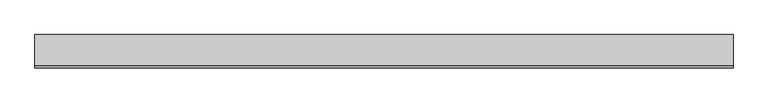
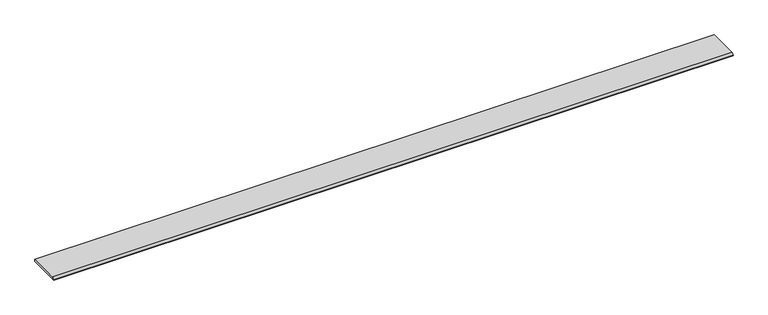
"""IFC4 building model written with IfcOpenShell, lengths in millimetres: proxy geometry, Muestra 2.5m 013 Anti-Slip : Muestra 2.5m 013 Anti-Slip."""

from ifc_helpers import new_model, si_unit, point, frame, frame_2d, origin, place, context, project, spatial, polyline, circle_curve, trimmed, segment, composite_curve, outline, extrude, source, transform, mapped, element, save


def generic_models_974fd3aa(model_context):
    return source(origin(), model_context, "Body", "SweptSolid", [
        extrude(outline(composite_curve([segment(polyline([(-12020.6143657, -199.3), (-11909.9715242, -199.3), (-11909.9715242, -207.3), (-12028.9715242, -207.3), (-12028.9715242, -206.5169838)]), True, "CONTINUOUS"), segment(trimmed(circle_curve(frame_2d((-12019.4974071, -209.040645)), 9.8044766), [point((-12028.9715242, -206.5169838))], [point((-12020.6143657, -199.3))], False, "CARTESIAN"), True, "CONTINUOUS")], self_intersect=False)), frame((153162.4425258, 0.0, 0.0), z_axis=(1.0, 0.0, 0.0), x_axis=(0.0, 1.0, 0.0)), (0.0, 0.0, 1.0), 2500.0),
    ])


if __name__ == "__main__":
    model = new_model("IFC4")
    model_context = context("Model", 3, world=origin())
    ifc_project = project(units=[si_unit("LENGTHUNIT", "METRE", prefix="MILLI")], contexts=[model_context])
    site = spatial("IfcSite", under=ifc_project)
    building = spatial("IfcBuilding", under=site)
    placement = place(None, origin())
    generic_models_shape = generic_models_974fd3aa(model_context)
    element("IfcBuildingElementProxy", 1, Name="Muestra 2.5m 013 Anti-Slip : Muestra 2.5m 013 Anti-Slip", ObjectType="Muestra 2.5m 013 Anti-Slip : Muestra 2.5m 013 Anti-Slip", at=placement, inside=building, context=model_context, shape_type="MappedRepresentation", body=[
        mapped(generic_models_shape, transform((0.0, 0.0, 0.0), x_axis=(1.0, 0.0, 0.0), y_axis=(0.0, 1.0, 0.0), z_axis=(0.0, 0.0, 1.0))),
    ])
    save(model, "model.ifc")
